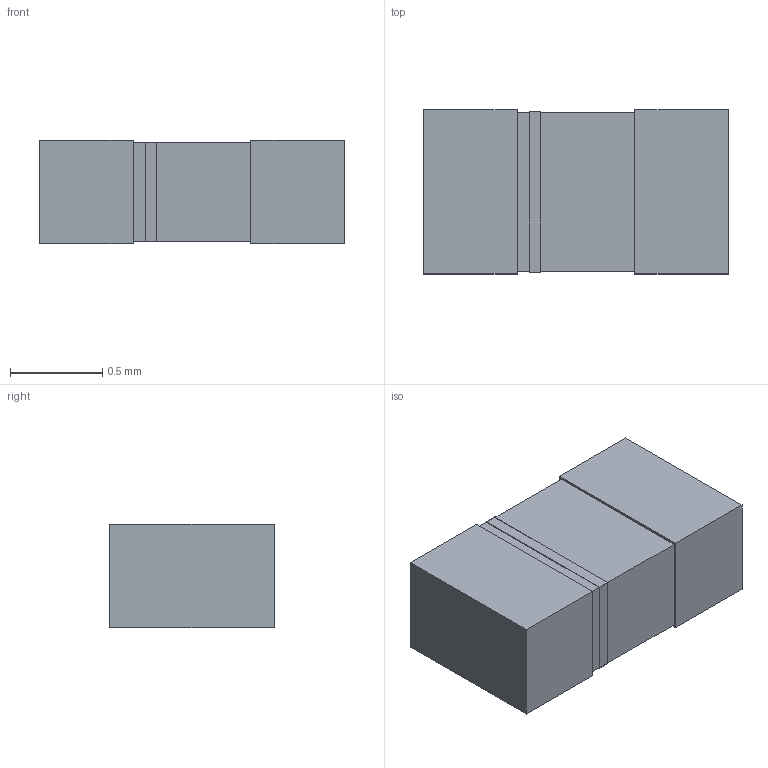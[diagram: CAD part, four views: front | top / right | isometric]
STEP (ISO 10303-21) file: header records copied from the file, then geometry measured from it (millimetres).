
FILE_DESCRIPTION(('STEP AP214'),'1');
FILE_NAME('RES_0603_TEC','2021-08-28T10:57:13',(''),(''),'','','');
FILE_SCHEMA(('AUTOMOTIVE_DESIGN'));
Length unit declared in the file: millimetre
Products named in the file (1): product
Bounding box: 1.65 x 0.89 x 0.56 mm (x, y, z)
Volume: 0.8 mm3; surface area: 8 mm2
Topology: 4 solids, 4 shells, 30 faces, 64 edges, 40 vertices
Faces by surface type: plane 30
Entity records: 799 total; most frequent: ORIENTED_EDGE 128, DIRECTION 126, CARTESIAN_POINT 71, EDGE_CURVE 64, LINE 64, VECTOR 64, VERTEX_POINT 40, AXIS2_PLACEMENT_3D 31
